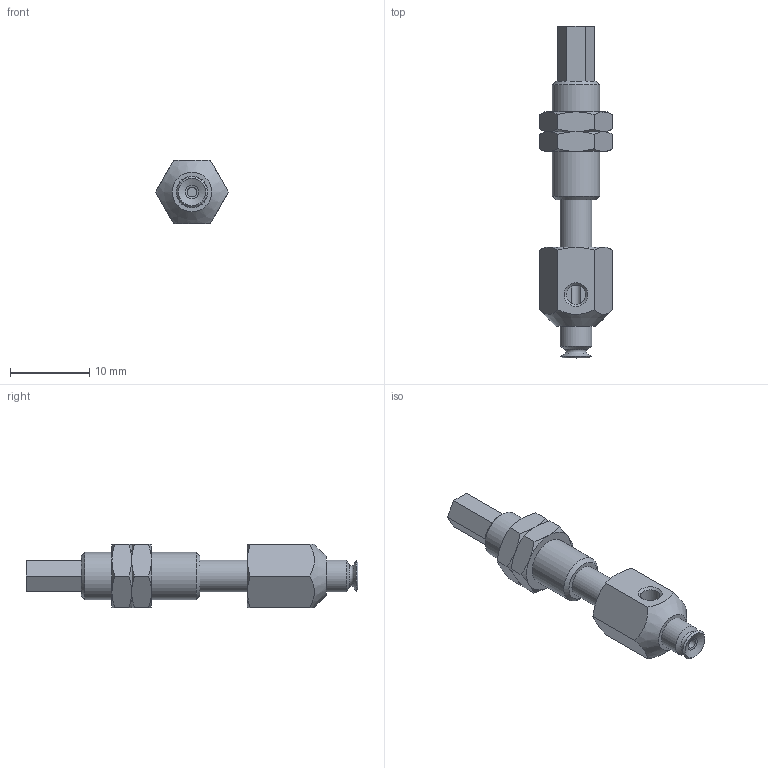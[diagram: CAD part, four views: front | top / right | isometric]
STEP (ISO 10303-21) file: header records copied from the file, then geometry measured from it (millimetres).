
FILE_DESCRIPTION(('STEP AP203'),'1');
FILE_NAME('.stp','2025-04-09T05:18:51',(' '),(' '),'Spatial InterOp 3D',' ',' ');
FILE_SCHEMA(('CONFIG_CONTROL_DESIGN'));
Length unit declared in the file: millimetre
Products named in the file (6): BNABPFYS-3.5A-6-※; CONNECTOR-3.5A-6; Nut-3.5A-6-s; NAPFTS-3.5A-6-FBODY; NAPFTS-3.5A-6-MBODY; BPFG-3.5A-※
Assembly tree (6 placements, depth 2):
  BNABPFYS-3.5A-6-※
    CONNECTOR-3.5A-6
    Nut-3.5A-6-s  x2
    NAPFTS-3.5A-6-FBODY
    NAPFTS-3.5A-6-MBODY
    BPFG-3.5A-※
Bounding box: 9.24 x 42 x 8 mm (x, y, z)
Volume: 1259.3 mm3; surface area: 1899.1 mm2
Topology: 6 solids, 6 shells, 126 faces, 269 edges, 161 vertices
Faces by surface type: plane 56, cone 47, cylinder 15, torus 7, bspline 1
Full cylindrical faces by diameter (mm): 1.2 x2, 2 x2, 2.459 x2, 3 x3, 4 x3, 5.188 x2, 6 x1
Entity records: 3075 total; most frequent: CARTESIAN_POINT 759, DIRECTION 422, ORIENTED_EDGE 356, AXIS2_PLACEMENT_3D 183, EDGE_CURVE 178, EDGE_LOOP 154, VERTEX_POINT 126, FACE_OUTER_BOUND 125
